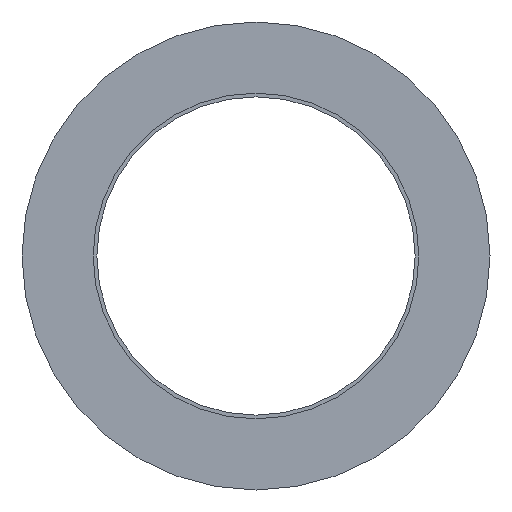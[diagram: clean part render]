
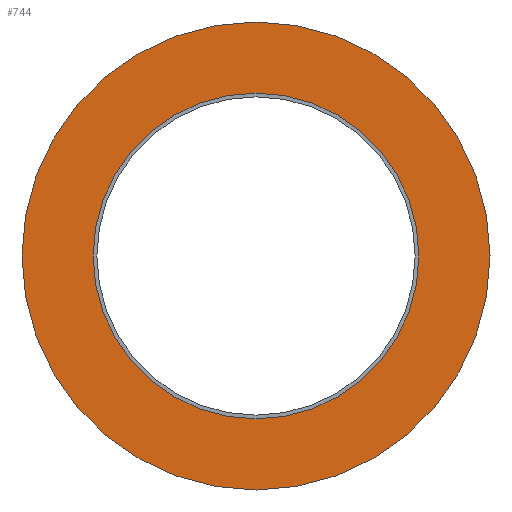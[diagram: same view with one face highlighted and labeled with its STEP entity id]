
A CAD part, left-side view. The second image highlights one B-rep face of the part: STEP entity #744.
In plain terms, the highlighted planar face has unit normal (-1, 0, 0).
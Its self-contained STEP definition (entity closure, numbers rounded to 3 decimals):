
#130=CARTESIAN_POINT('',(0.0,26.1,0.0));
#131=VERTEX_POINT('',#130);
#140=CARTESIAN_POINT('',(0.0,-26.1,0.));
#141=VERTEX_POINT('',#140);
#142=CARTESIAN_POINT('',(0.0,0.0,0.0));
#143=DIRECTION('',(1.0,0.0,0.0));
#144=DIRECTION('',(0.0,1.0,0.0));
#145=AXIS2_PLACEMENT_3D('',#142,#143,#144);
#146=CIRCLE('',#145,26.1);
#147=EDGE_CURVE('',#141,#131,#146,.T.);
#214=CARTESIAN_POINT('',(0.0,37.5,0.0));
#215=VERTEX_POINT('',#214);
#224=CARTESIAN_POINT('',(0.0,-37.5,0.));
#225=VERTEX_POINT('',#224);
#226=CARTESIAN_POINT('',(0.0,0.0,0.0));
#227=DIRECTION('',(1.0,0.0,0.0));
#228=DIRECTION('',(0.0,1.0,0.0));
#229=AXIS2_PLACEMENT_3D('',#226,#227,#228);
#230=CIRCLE('',#229,37.5);
#231=EDGE_CURVE('',#215,#225,#230,.T.);
#645=CARTESIAN_POINT('',(0.0,0.0,0.0));
#646=DIRECTION('',(1.0,0.0,0.0));
#647=DIRECTION('',(0.0,1.0,0.0));
#648=AXIS2_PLACEMENT_3D('',#645,#646,#647);
#649=CIRCLE('',#648,37.5);
#650=EDGE_CURVE('',#225,#215,#649,.T.);
#721=CARTESIAN_POINT('',(0.0,0.0,0.0));
#722=DIRECTION('',(1.0,0.0,0.0));
#723=DIRECTION('',(0.0,1.0,0.0));
#724=AXIS2_PLACEMENT_3D('',#721,#722,#723);
#725=CIRCLE('',#724,26.1);
#726=EDGE_CURVE('',#131,#141,#725,.T.);
#731=CARTESIAN_POINT('',(0.0,31.8,0.0));
#732=DIRECTION('',(-1.0,0.0,0.0));
#733=DIRECTION('',(0.0,0.0,1.0));
#734=AXIS2_PLACEMENT_3D('',#731,#732,#733);
#735=PLANE('',#734);
#736=ORIENTED_EDGE('',*,*,#231,.F.);
#737=ORIENTED_EDGE('',*,*,#650,.F.);
#738=EDGE_LOOP('',(#736,#737));
#739=FACE_OUTER_BOUND('',#738,.T.);
#740=ORIENTED_EDGE('',*,*,#726,.T.);
#741=ORIENTED_EDGE('',*,*,#147,.T.);
#742=EDGE_LOOP('',(#740,#741));
#743=FACE_BOUND('',#742,.T.);
#744=ADVANCED_FACE('',(#739,#743),#735,.T.);
